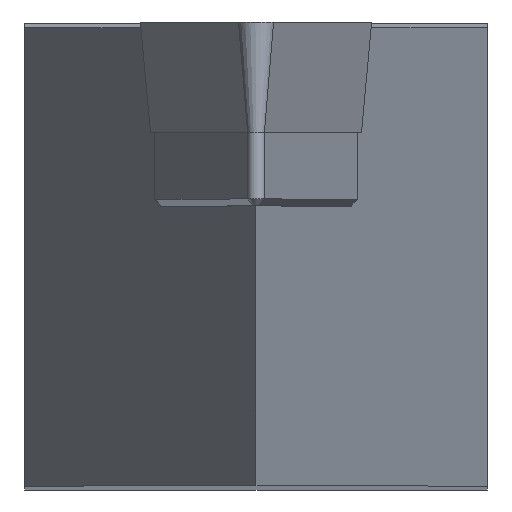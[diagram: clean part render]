
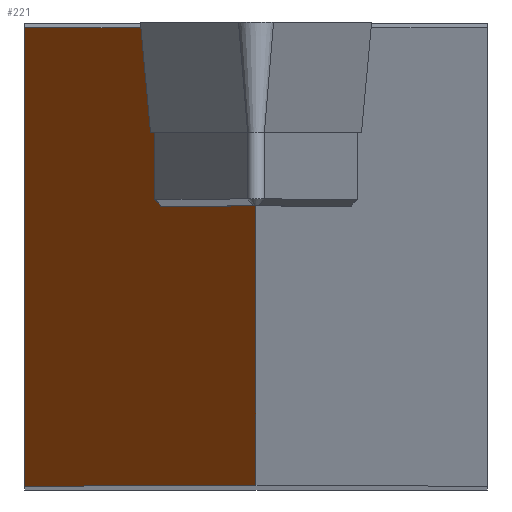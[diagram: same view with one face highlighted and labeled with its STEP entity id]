
A CAD part, top view. The second image highlights one B-rep face of the part: STEP entity #221.
In plain terms, the highlighted planar face has unit normal (-0.954, 0, 0.301).
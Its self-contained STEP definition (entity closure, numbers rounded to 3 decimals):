
#168=FACE_OUTER_BOUND('',#344,.T.);
#221=ADVANCED_FACE('',(#168),#264,.F.);
#264=PLANE('',#1160);
#344=EDGE_LOOP('',(#592,#593,#594,#595,#596,#597,#598,#599,#600,#601,#602));
#592=ORIENTED_EDGE('',*,*,#860,.T.);
#593=ORIENTED_EDGE('',*,*,#861,.T.);
#594=ORIENTED_EDGE('',*,*,#832,.F.);
#595=ORIENTED_EDGE('',*,*,#824,.T.);
#596=ORIENTED_EDGE('',*,*,#820,.F.);
#597=ORIENTED_EDGE('',*,*,#862,.T.);
#598=ORIENTED_EDGE('',*,*,#858,.T.);
#599=ORIENTED_EDGE('',*,*,#853,.F.);
#600=ORIENTED_EDGE('',*,*,#847,.T.);
#601=ORIENTED_EDGE('',*,*,#844,.F.);
#602=ORIENTED_EDGE('',*,*,#840,.F.);
#707=VERTEX_POINT('',#1616);
#708=VERTEX_POINT('',#1617);
#710=VERTEX_POINT('',#1624);
#714=VERTEX_POINT('',#1640);
#721=VERTEX_POINT('',#1655);
#722=VERTEX_POINT('',#1657);
#724=VERTEX_POINT('',#1662);
#726=VERTEX_POINT('',#1671);
#729=VERTEX_POINT('',#1680);
#733=VERTEX_POINT('',#1692);
#734=VERTEX_POINT('',#1696);
#820=EDGE_CURVE('',#707,#708,#933,.T.);
#824=EDGE_CURVE('',#710,#708,#937,.T.);
#832=EDGE_CURVE('',#710,#714,#945,.T.);
#840=EDGE_CURVE('',#721,#722,#952,.T.);
#844=EDGE_CURVE('',#722,#724,#956,.T.);
#847=EDGE_CURVE('',#726,#724,#959,.T.);
#853=EDGE_CURVE('',#726,#729,#965,.T.);
#858=EDGE_CURVE('',#733,#729,#968,.T.);
#860=EDGE_CURVE('',#721,#734,#970,.T.);
#861=EDGE_CURVE('',#734,#714,#971,.T.);
#862=EDGE_CURVE('',#707,#733,#972,.T.);
#933=LINE('',#1615,#1042);
#937=LINE('',#1623,#1046);
#945=LINE('',#1639,#1054);
#952=LINE('',#1656,#1061);
#956=LINE('',#1664,#1065);
#959=LINE('',#1670,#1068);
#965=LINE('',#1682,#1074);
#968=LINE('',#1691,#1077);
#970=LINE('',#1695,#1079);
#971=LINE('',#1697,#1080);
#972=LINE('',#1698,#1081);
#1042=VECTOR('',#1340,1.);
#1046=VECTOR('',#1346,1.);
#1054=VECTOR('',#1362,1.);
#1061=VECTOR('',#1373,1.);
#1065=VECTOR('',#1379,1.);
#1068=VECTOR('',#1386,1.);
#1074=VECTOR('',#1396,1.);
#1077=VECTOR('',#1405,1.);
#1079=VECTOR('',#1409,1.);
#1080=VECTOR('',#1410,1.);
#1081=VECTOR('',#1411,1.);
#1160=AXIS2_PLACEMENT_3D('',#1699,#1412,#1413);
#1340=DIRECTION('',(-0.301,0.,-0.954));
#1346=DIRECTION('',(0.,-1.,0.));
#1362=DIRECTION('',(0.301,0.,0.954));
#1373=DIRECTION('',(0.045,-0.989,0.144));
#1379=DIRECTION('',(0.,-1.,0.));
#1386=DIRECTION('',(-0.301,0.,-0.954));
#1396=DIRECTION('',(0.,-1.,0.));
#1405=DIRECTION('',(-0.301,0.,-0.954));
#1409=DIRECTION('',(-0.301,0.,-0.954));
#1410=DIRECTION('',(0.,1.,0.));
#1411=DIRECTION('',(0.,1.,0.));
#1412=DIRECTION('',(0.954,0.,-0.301));
#1413=DIRECTION('',(-0.301,0.,-0.954));
#1615=CARTESIAN_POINT('',(-15.491,-20.,-51.533));
#1616=CARTESIAN_POINT('',(0.,-20.,-2.4));
#1617=CARTESIAN_POINT('',(-10.,-20.,-34.116));
#1623=CARTESIAN_POINT('',(-10.,0.,-34.116));
#1624=CARTESIAN_POINT('',(-10.,-0.2,-34.116));
#1639=CARTESIAN_POINT('',(-0.216,-0.2,-3.085));
#1640=CARTESIAN_POINT('',(-4.566,-0.2,-16.88));
#1655=CARTESIAN_POINT('',(-4.447,-0.5,-16.504));
#1656=CARTESIAN_POINT('',(-4.451,-0.416,-16.516));
#1657=CARTESIAN_POINT('',(-4.353,-2.56,-16.204));
#1662=CARTESIAN_POINT('',(-4.353,-4.76,-16.204));
#1664=CARTESIAN_POINT('',(-4.353,-4.76,-16.204));
#1670=CARTESIAN_POINT('',(-0.167,-4.76,-2.931));
#1671=CARTESIAN_POINT('',(-4.14,-4.76,-15.529));
#1680=CARTESIAN_POINT('',(-4.14,-7.94,-15.529));
#1682=CARTESIAN_POINT('',(-4.14,-7.94,-15.529));
#1691=CARTESIAN_POINT('',(-7.531,-7.94,-26.284));
#1692=CARTESIAN_POINT('',(0.,-7.94,-2.4));
#1695=CARTESIAN_POINT('',(-15.491,-0.5,-51.533));
#1696=CARTESIAN_POINT('',(-4.566,-0.5,-16.88));
#1697=CARTESIAN_POINT('',(-4.566,-20.,-16.88));
#1698=CARTESIAN_POINT('',(0.,-20.,-2.4));
#1699=CARTESIAN_POINT('',(-15.491,-20.,-51.533));
